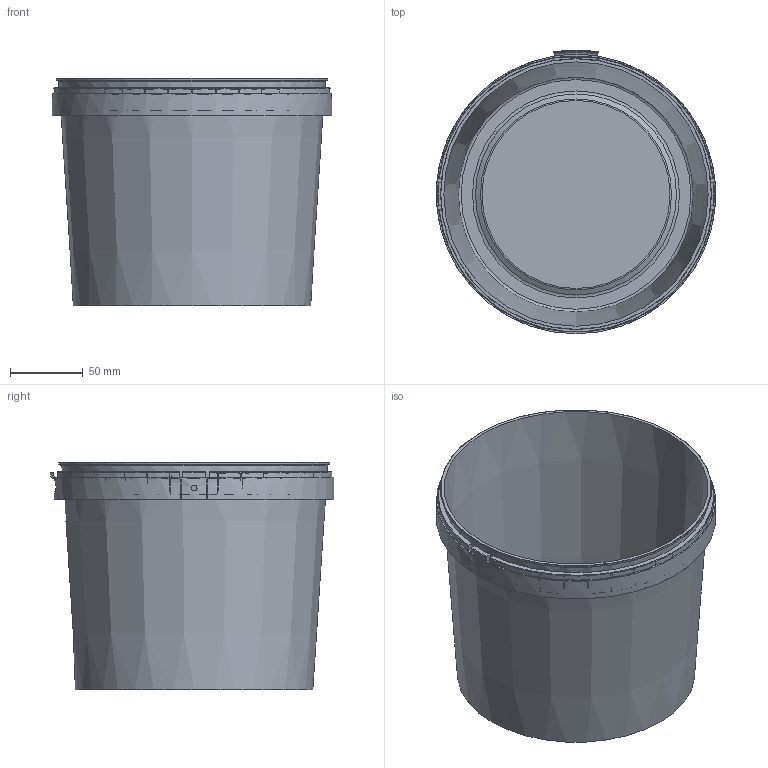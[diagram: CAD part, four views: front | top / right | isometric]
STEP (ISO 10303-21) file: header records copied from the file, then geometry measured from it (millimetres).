
FILE_DESCRIPTION(('STEP AP203'), '1');
FILE_NAME('Âåäðî 3 ëèòðà', '', ('UNSPECIFIED'), ('UNSPECIFIED'), 'C3D Converter', 'C3D Toolkit', '');
FILE_SCHEMA(('CONFIG_CONTROL_DESIGN'));
Length unit declared in the file: millimetre
Bounding box: 191.72 x 194.59 x 156.2 mm (x, y, z)
Volume: 124961.1 mm3; surface area: 244576.5 mm2
Topology: 1 solids, 17 shells, 1076 faces, 3093 edges, 2084 vertices
Faces by surface type: plane 654, extrusion 201, cylinder 159, cone 26, torus 24, bspline 10, revolution 2
Full cylindrical faces by diameter (mm): 4 x2, 141 x1, 142 x1, 143.8 x1, 144.8 x1, 146.6 x1, 147.6 x1, 149.4 x1, 150.4 x1, 152.2 x1, 153.2 x1, 155 x1, 156 x1, 160.368 x1, 186 x1, 191.724 x1
Entity records: 47117 total; most frequent: CARTESIAN_POINT 11355, ORIENTED_EDGE 5860, DIRECTION 4871, EDGE_CURVE 3010, VECTOR 2147, VERTEX_POINT 2029, LINE 1946, AXIS2_PLACEMENT_3D 1361
